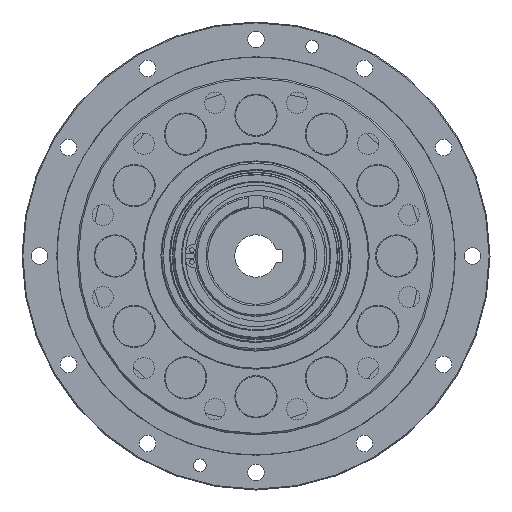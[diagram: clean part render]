
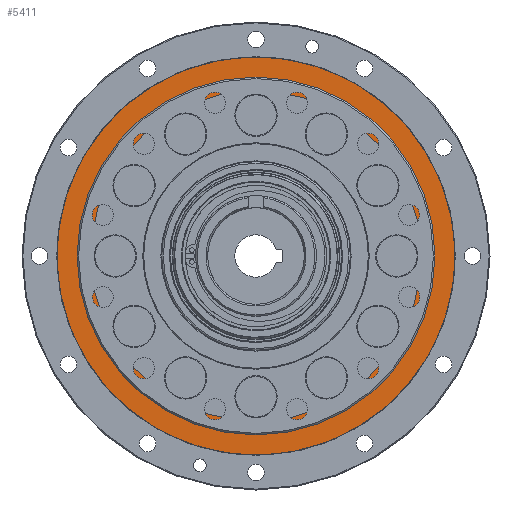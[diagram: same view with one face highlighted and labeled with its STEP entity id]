
A CAD part, left-side view. The second image highlights one B-rep face of the part: STEP entity #5411.
In plain terms, the highlighted planar face has unit normal (-1, 0, 0) as drawn and (0, 0, -1) by its records, which use the part's own axes.
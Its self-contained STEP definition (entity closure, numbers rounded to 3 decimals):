
#249=FACE_BOUND('',#1037,.T.);
#391=PLANE('',#6090);
#693=FACE_OUTER_BOUND('',#1036,.T.);
#1036=EDGE_LOOP('',(#4009));
#1037=EDGE_LOOP('',(#4010));
#2004=CIRCLE('',#6084,109.5);
#2007=CIRCLE('',#6088,132.);
#2531=VERTEX_POINT('',#9060);
#2534=VERTEX_POINT('',#9068);
#3116=EDGE_CURVE('',#2531,#2531,#2004,.T.);
#3121=EDGE_CURVE('',#2534,#2534,#2007,.T.);
#4009=ORIENTED_EDGE('',*,*,#3121,.T.);
#4010=ORIENTED_EDGE('',*,*,#3116,.T.);
#5411=ADVANCED_FACE('',(#693,#249),#391,.T.);
#6084=AXIS2_PLACEMENT_3D('',#9061,#7100,#7101);
#6088=AXIS2_PLACEMENT_3D('',#9070,#7110,#7111);
#6090=AXIS2_PLACEMENT_3D('',#9072,#7114,#7115);
#7100=DIRECTION('center_axis',(0.,0.,1.));
#7101=DIRECTION('ref_axis',(-1.,0.,0.));
#7110=DIRECTION('center_axis',(0.,0.,-1.));
#7111=DIRECTION('ref_axis',(-1.,0.,0.));
#7114=DIRECTION('center_axis',(0.,0.,-1.));
#7115=DIRECTION('ref_axis',(-1.,0.,0.));
#9060=CARTESIAN_POINT('',(109.5,0.,0.));
#9061=CARTESIAN_POINT('Origin',(0.,0.,0.));
#9068=CARTESIAN_POINT('',(132.,0.,0.));
#9070=CARTESIAN_POINT('Origin',(0.,0.,0.));
#9072=CARTESIAN_POINT('Origin',(0.,0.,0.));
